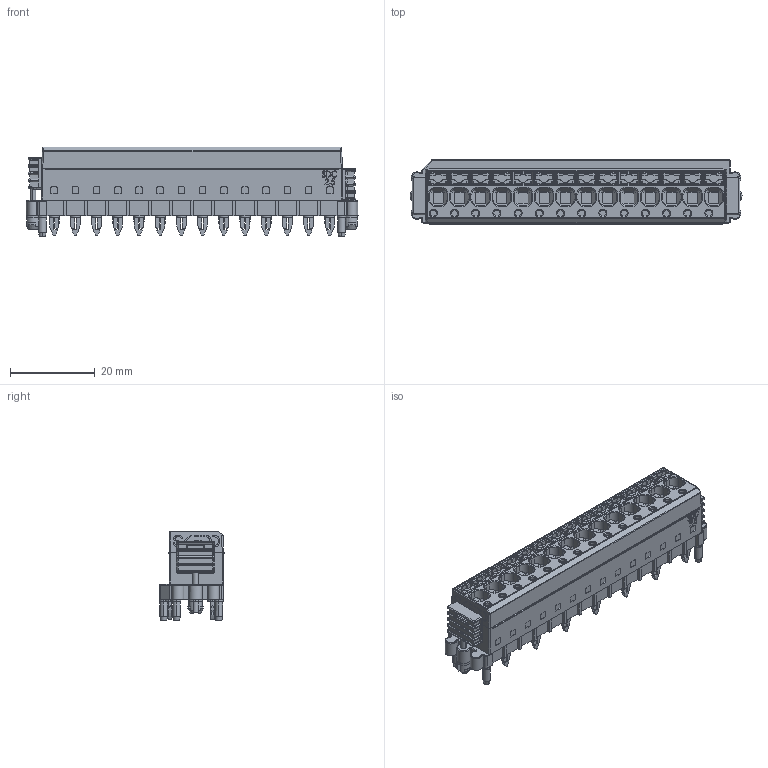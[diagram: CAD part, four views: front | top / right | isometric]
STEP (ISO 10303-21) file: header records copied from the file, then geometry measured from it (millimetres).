
FILE_DESCRIPTION(('Creo Elements/Direct Modeling STEP Export'),'2;1');
FILE_NAME('D:/temp/JobSpoolerServerData/JobServer Files/892192a9-514b-41c4-a7e1-21d769e62bb6/work/output/model.stp','2018-07-31T 7:25:20',(''),(''),'Creo Elements/Direct Modeling STEP processor for AP214 (Solid Model)','Creo Elements/Direct Modeling 18.1I 14-Aug-2016 (C) Parametric Technology GmbH','');
FILE_SCHEMA(('AUTOMOTIVE_DESIGN { 1 0 10303 214 1 1 1 1 }'));
Length unit declared in the file: millimetre
Products named in the file (8): PCB_Bohrloch.1.1.6; SDC_2_5_5_GEH; Ver._Bohrloch.1; SDC_2.5_Schieber; Position_Bohrloch; SDC-2.5-Seitenteil_links; SDC-2.5-Seitenteil_rechts; SDC_2.5_15-PV-5.0.1
Assembly tree (25 placements, depth 3):
  SDC_2.5_15-PV-5.0.1
    PCB_Bohrloch.1.1.6  x14
    SDC-2.5-Seitenteil_rechts
      Ver._Bohrloch.1
      SDC_2.5_Schieber
      Position_Bohrloch  x2
    SDC-2.5-Seitenteil_links
      Position_Bohrloch  x2
      SDC_2.5_Schieber
      Ver._Bohrloch.1
    SDC_2_5_5_GEH
Bounding box: 78.3 x 15.3 x 21.2 mm (x, y, z)
Volume: 14872.1 mm3; surface area: 8506.3 mm2
Topology: 23 solids, 23 shells, 2634 faces, 6957 edges, 4508 vertices
Faces by surface type: plane 1462, cylinder 826, torus 147, bspline 116, cone 50, extrusion 23, sphere 10
Entity records: 119503 total; most frequent: CARTESIAN_POINT 40166, ORIENTED_EDGE 13032, DIRECTION 11570, EDGE_CURVE 6516, VERTEX_POINT 4238, VECTOR 4238, LINE 4215, AXIS2_PLACEMENT_3D 3666
